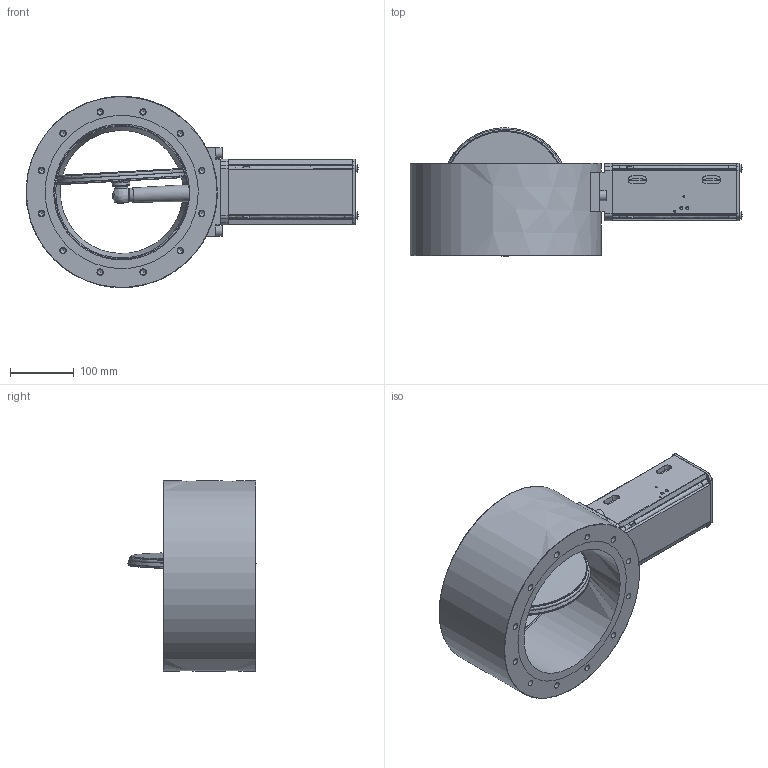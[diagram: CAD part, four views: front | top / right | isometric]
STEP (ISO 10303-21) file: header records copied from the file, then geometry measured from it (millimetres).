
FILE_DESCRIPTION((''),'2;1');
FILE_NAME('O:\MT\MT\Systeme\Cad\Datenexporte\www_vat_ch\245069.stp','2004-06-18T13:18:37',('User'),('SDRC'),'I-DEAS Master Series 9','UNIX','Yes');
FILE_SCHEMA(('CONFIG_CONTROL_DESIGN'));
Length unit declared in the file: millimetre
Assembly tree (28 placements, depth 0):
Bounding box: 520.44 x 201.05 x 299.57 mm (x, y, z)
Volume: 6585262.3 mm3; surface area: 709449.8 mm2
Topology: 35 solids, 35 shells, 870 faces, 1971 edges, 1269 vertices
Faces by surface type: bspline 870
Entity records: 24062 total; most frequent: CARTESIAN_POINT 12368, ORIENTED_EDGE 2918, EDGE_CURVE 1459, VERTEX_POINT 964, EDGE_LOOP 853, FACE_OUTER_BOUND 658, ADVANCED_FACE 658, QUASI_UNIFORM_CURVE 603
